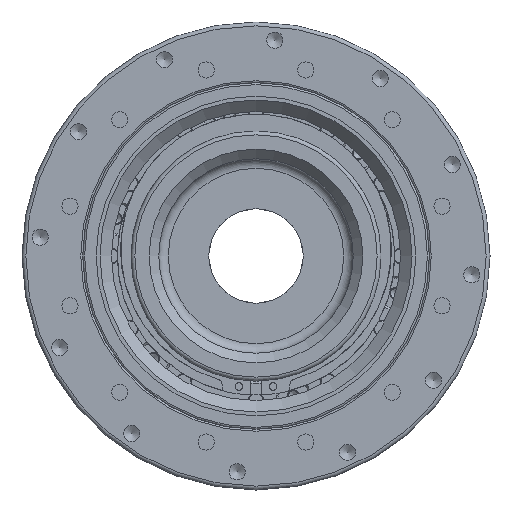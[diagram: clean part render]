
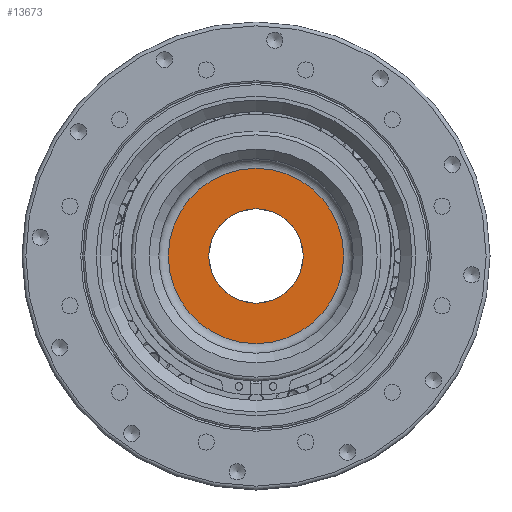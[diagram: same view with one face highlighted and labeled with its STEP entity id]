
A CAD part, left-side view. The second image highlights one B-rep face of the part: STEP entity #13673.
In plain terms, the highlighted planar face has unit normal (-1, 0, 0).
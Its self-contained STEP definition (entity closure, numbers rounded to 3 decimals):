
#5309=ORIENTED_EDGE('',*,*,#7174,.T.);
#5310=ORIENTED_EDGE('',*,*,#7151,.F.);
#7151=EDGE_CURVE('',#8444,#8444,#9392,.T.);
#7174=EDGE_CURVE('',#8454,#8454,#9403,.T.);
#8444=VERTEX_POINT('',#24825);
#8454=VERTEX_POINT('',#24881);
#9392=CIRCLE('',#15493,24.5);
#9403=CIRCLE('',#15518,45.5);
#10766=EDGE_LOOP('',(#5309));
#10767=EDGE_LOOP('',(#5310));
#12260=FACE_BOUND('',#10766,.T.);
#12261=FACE_BOUND('',#10767,.T.);
#12844=PLANE('',#15517);
#13673=ADVANCED_FACE('',(#12260,#12261),#12844,.T.);
#15493=AXIS2_PLACEMENT_3D('',#24824,#19433,#19434);
#15517=AXIS2_PLACEMENT_3D('',#24879,#19490,#19491);
#15518=AXIS2_PLACEMENT_3D('',#24880,#19492,#19493);
#19433=DIRECTION('',(-1.,0.,0.));
#19434=DIRECTION('',(0.,0.,1.));
#19490=DIRECTION('',(-1.,0.,0.));
#19491=DIRECTION('',(0.,0.,1.));
#19492=DIRECTION('',(-1.,0.,0.));
#19493=DIRECTION('',(0.,0.,1.));
#24824=CARTESIAN_POINT('',(70.65,0.,0.));
#24825=CARTESIAN_POINT('',(70.65,0.,24.5));
#24879=CARTESIAN_POINT('',(70.65,0.,50.5));
#24880=CARTESIAN_POINT('',(70.65,0.,0.));
#24881=CARTESIAN_POINT('',(70.65,0.,45.5));
